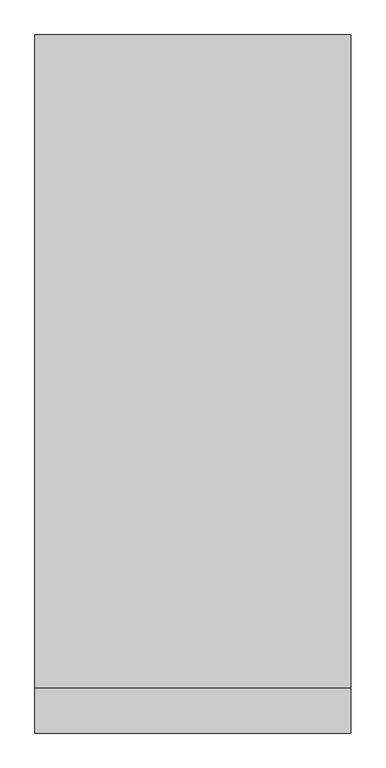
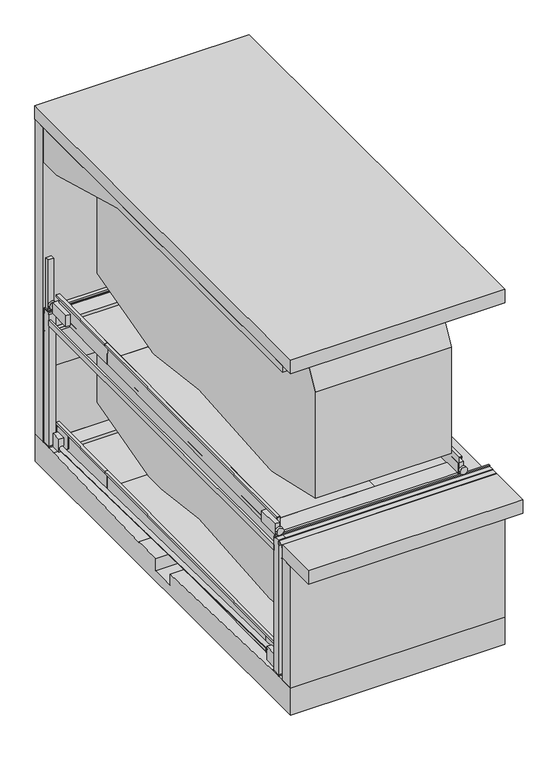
"""IFC4 building model written with IfcOpenShell, lengths in millimetres: proxy geometry, TrendVario_6100 : TrendVario_6100."""

from ifc_helpers import new_model, si_unit, point, frame, frame_2d, origin, place, context, project, spatial, polyline, circle_curve, trimmed, segment, composite_curve, outline, extrude, faceted_brep, source, transform, mapped, element, save
from ifc_brep_helpers import plane_surface, cylinder_surface, advanced_brep


def generic_models_a79fadba(model_context):
    return source(origin(), model_context, "Body", "SolidModel", [
        extrude(outline(polyline([(0.0, -1500.0), (0.0, 0.0), (1170.0, 0.0), (1170.0, -1500.0), (0.0, -1500.0)])), frame((100.0, 4411.8759587, 12.9805913), z_axis=(0.0, -0.008726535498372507, 0.9999619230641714), x_axis=(0.0, 0.9999619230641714, 0.008726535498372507)), (0.0, 0.0, 1.0), 8.0),
        extrude(outline(polyline([(5343.3866911, 73.1117424), (5581.3776288, 75.1886579), (5581.7615964, 31.1903332), (5578.7617106, 31.1641536), (5578.4039226, 72.1625925), (5346.4127565, 70.1380362), (5346.7705444, 29.1395974), (5343.7706587, 29.1134178), (5343.3866911, 73.1117424)])), frame((100.0, 0.0, 0.0), z_axis=(1.0, 0.0, 0.0), x_axis=(0.0, 1.0, 0.0)), (0.0, 0.0, 1.0), 1500.0),
        extrude(outline(polyline([(320.0, 0.0), (320.0, -43.0), (290.0, -43.0), (290.0, -40.0), (317.0, -40.0), (317.0, -3.0), (0.0, -3.0), (0.0, 52.0), (47.0, 52.0), (47.0, 89.0), (49.9999999, 89.0), (49.9999999, 49.0), (2.9999999, 49.0), (2.9999999, 0.0), (320.0, 0.0)])), frame((100.0, 4412.3122854, -37.0175048), z_axis=(0.0, 0.9999619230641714, 0.008726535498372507), x_axis=(0.0, -0.008726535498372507, 0.9999619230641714)), (0.0, 0.0, 1.0), 1170.0),
        extrude(outline(composite_curve([segment(trimmed(circle_curve(frame_2d((-273.0, 50.2890841)), 6.0), [point((-273.0, 44.2890841))], [point((-273.0, 56.2890841))], False, "CARTESIAN"), True, "CONTINUOUS"), segment(trimmed(circle_curve(frame_2d((-273.0, 50.2890841)), 6.0), [point((-273.0, 56.2890841))], [point((-273.0, 44.2890841))], False, "CARTESIAN"), True, "CONTINUOUS")], self_intersect=False)), frame((0.0, 5774.7632152, 0.0), z_axis=(0.0, 1.0, 0.0), x_axis=(0.0, 0.0, 1.0)), (0.0, 0.0, 1.0), 150.0),
        extrude(outline(composite_curve([segment(trimmed(circle_curve(frame_2d((-273.0, 2650.0)), 6.0), [point((-267.0, 2650.0))], [point((-279.0, 2650.0))], False, "CARTESIAN"), True, "CONTINUOUS"), segment(trimmed(circle_curve(frame_2d((-273.0, 2650.0)), 6.0), [point((-279.0, 2650.0))], [point((-267.0, 2650.0))], False, "CARTESIAN"), True, "CONTINUOUS")], self_intersect=False)), frame((0.0, 5769.5664345, 0.0), z_axis=(0.0, 1.0, 0.0), x_axis=(0.0, 0.0, 1.0)), (0.0, 0.0, 1.0), 150.0),
        extrude(outline(composite_curve([segment(trimmed(circle_curve(frame_2d((-273.0, 2650.0)), 6.0), [point((-267.0, 2650.0))], [point((-279.0, 2650.0))], False, "CARTESIAN"), True, "CONTINUOUS"), segment(trimmed(circle_curve(frame_2d((-273.0, 2650.0)), 6.0), [point((-279.0, 2650.0))], [point((-267.0, 2650.0))], False, "CARTESIAN"), True, "CONTINUOUS")], self_intersect=False)), frame((0.0, -50.0, 0.0), z_axis=(0.0, 1.0, 0.0), x_axis=(0.0, 0.0, 1.0)), (0.0, 0.0, 1.0), 150.0),
        extrude(outline(composite_curve([segment(trimmed(circle_curve(frame_2d((-273.0, 50.0)), 6.0), [point((-273.0, 56.0))], [point((-273.0, 44.0))], False, "CARTESIAN"), True, "CONTINUOUS"), segment(trimmed(circle_curve(frame_2d((-273.0, 50.0)), 6.0), [point((-273.0, 44.0))], [point((-273.0, 56.0))], False, "CARTESIAN"), True, "CONTINUOUS")], self_intersect=False)), frame((0.0, -50.0, 0.0), z_axis=(0.0, 1.0, 0.0), x_axis=(0.0, 0.0, 1.0)), (0.0, 0.0, 1.0), 150.0),
        extrude(outline(composite_curve([segment(trimmed(circle_curve(frame_2d((145.0, 150.0)), 6.0), [point((139.0, 150.0))], [point((151.0, 150.0))], False, "CARTESIAN"), True, "CONTINUOUS"), segment(trimmed(circle_curve(frame_2d((145.0, 150.0)), 6.0), [point((151.0, 150.0))], [point((139.0, 150.0))], False, "CARTESIAN"), True, "CONTINUOUS")], self_intersect=False)), frame((0.0, 0.0, -2150.0), z_axis=(0.0, 0.0, 1.0), x_axis=(1.0, 0.0, 0.0)), (0.0, 0.0, 1.0), 150.0),
        extrude(outline(composite_curve([segment(trimmed(circle_curve(frame_2d((2555.0, 150.0)), 6.0), [point((2549.0, 150.0))], [point((2561.0, 150.0))], False, "CARTESIAN"), True, "CONTINUOUS"), segment(trimmed(circle_curve(frame_2d((2555.0, 150.0)), 6.0), [point((2561.0, 150.0))], [point((2549.0, 150.0))], False, "CARTESIAN"), True, "CONTINUOUS")], self_intersect=False)), frame((0.0, 0.0, -2150.0), z_axis=(0.0, 0.0, 1.0), x_axis=(1.0, 0.0, 0.0)), (0.0, 0.0, 1.0), 150.0),
        extrude(outline(composite_curve([segment(trimmed(circle_curve(frame_2d((2555.0, 5722.5588178)), 6.0), [point((2549.0, 5722.5588178))], [point((2561.0, 5722.5588178))], False, "CARTESIAN"), True, "CONTINUOUS"), segment(trimmed(circle_curve(frame_2d((2555.0, 5722.5588178)), 6.0), [point((2561.0, 5722.5588178))], [point((2549.0, 5722.5588178))], False, "CARTESIAN"), True, "CONTINUOUS")], self_intersect=False)), frame((0.0, 0.0, -2150.0), z_axis=(0.0, 0.0, 1.0), x_axis=(1.0, 0.0, 0.0)), (0.0, 0.0, 1.0), 150.0),
        extrude(outline(polyline([(320.0, 0.0), (3.0, 0.0), (3.0, -49.0), (49.9999999, -49.0), (49.9999999, -89.0), (47.0, -89.0), (47.0, -52.0), (0.0, -52.0), (0.0, 3.0), (317.0, 3.0), (317.0, 40.0), (290.0, 40.0), (290.0, 43.0), (320.0, 43.0), (320.0, 0.0)])), frame((2600.0, 237.7412679, -1960.4094164), z_axis=(0.0, 0.9999619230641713, 0.008726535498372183), x_axis=(0.0, -0.008726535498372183, 0.9999619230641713)), (0.0, 0.0, 1.0), 4178.0),
        extrude(outline(polyline([(1941.867435, 0.0), (1941.867435, -1000.0), (-1962.132565, -1000.0), (-1962.132565, 0.0), (1941.867435, 0.0)])), frame((1600.0, 2473.3523611, -1890.89763), z_axis=(0.0, -0.008726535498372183, 0.9999619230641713), x_axis=(0.0, 0.9999619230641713, 0.008726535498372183)), (0.0, 0.0, 1.0), 8.0),
        extrude(outline(polyline([(0.0, -136.0), (0.0, 0.0), (67.0, 0.0), (67.0, -136.0), (0.0, -136.0)])), frame((20.0, 5591.7992407, -1943.6900531), z_axis=(0.0, -0.008726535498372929, 0.9999619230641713), x_axis=(1.0, 0.0, 0.0)), (0.0, 0.0, 1.0), 195.0),
        extrude(outline(polyline([(5613.3985296, -1668.4910874), (5616.1473883, -1983.4790932), (5481.1525287, -1984.6571755), (5344.9795868, -1850.8403982), (5342.7979529, -1600.8499174), (5582.7888144, -1598.7555489), (5583.3996719, -1668.7528835), (5613.3985296, -1668.4910874)])), frame((87.0, 0.0, 0.0), z_axis=(1.0, 0.0, 0.0), x_axis=(0.0, 1.0, 0.0)), (0.0, 0.0, 1.0), 10.0),
        extrude(outline(polyline([(0.0, -1500.0), (0.0, 0.0), (1170.0, 0.0), (1170.0, -1500.0), (0.0, -1500.0)])), frame((100.0, 4415.1458963, -1873.955505), z_axis=(0.0, -0.008726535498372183, 0.9999619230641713), x_axis=(0.0, 0.9999619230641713, 0.008726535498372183)), (0.0, 0.0, 1.0), 8.0),
        extrude(outline(polyline([(5346.6566288, -1813.8243539), (5584.6475665, -1811.7474385), (5585.031534, -1855.7457631), (5582.0316483, -1855.7719427), (5581.6738603, -1814.7735039), (5349.6826942, -1816.7980601), (5350.0404821, -1857.7964989), (5347.0405963, -1857.8226786), (5346.6566288, -1813.8243539)])), frame((100.0, 0.0, 0.0), z_axis=(1.0, 0.0, 0.0), x_axis=(0.0, 1.0, 0.0)), (0.0, 0.0, 1.0), 1500.0),
        extrude(outline(polyline([(320.0, 0.0), (320.0, -43.0), (290.0, -43.0), (290.0, -40.0), (317.0, -40.0), (317.0, -3.0), (0.0, -3.0), (0.0, 52.0), (47.0, 52.0), (47.0, 89.0), (50.0, 89.0), (50.0, 49.0), (3.0, 49.0), (3.0, 0.0), (320.0, 0.0)])), frame((100.0, 4415.5822231, -1923.9536012), z_axis=(0.0, 0.9999619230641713, 0.008726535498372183), x_axis=(0.0, -0.008726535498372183, 0.9999619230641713)), (0.0, 0.0, 1.0), 1170.0),
        extrude(outline(polyline([(320.0, 0.0), (3.0, 0.0), (3.0, -49.0), (49.9999999, -49.0), (49.9999999, -89.0), (47.0, -89.0), (47.0, -52.0), (0.0, -52.0), (0.0, 3.0), (317.0, 3.0), (317.0, 40.0), (290.0, 40.0), (290.0, 43.0), (320.0, 43.0), (320.0, 0.0)])), frame((2600.0, 232.7875414, -73.2083418), z_axis=(0.0, 0.9999619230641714, 0.008726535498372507), x_axis=(0.0, -0.008726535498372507, 0.9999619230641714)), (0.0, 0.0, 1.0), 4178.0),
        extrude(outline(polyline([(1941.867435, 0.0), (1941.867435, -1000.0), (-1962.132565, -1000.0), (-1962.132565, 0.0), (1941.867435, 0.0)])), frame((1600.0, 2468.3986345, -3.6965555), z_axis=(0.0, -0.008726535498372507, 0.9999619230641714), x_axis=(0.0, 0.9999619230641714, 0.008726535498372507)), (0.0, 0.0, 1.0), 8.0),
        extrude(outline(composite_curve([segment(trimmed(circle_curve(frame_2d((145.0, 5722.5588178)), 6.0), [point((139.0, 5722.5588178))], [point((151.0, 5722.5588178))], False, "CARTESIAN"), True, "CONTINUOUS"), segment(trimmed(circle_curve(frame_2d((145.0, 5722.5588178)), 6.0), [point((151.0, 5722.5588178))], [point((139.0, 5722.5588178))], False, "CARTESIAN"), True, "CONTINUOUS")], self_intersect=False)), frame((0.0, 0.0, -2150.0), z_axis=(0.0, 0.0, 1.0), x_axis=(1.0, 0.0, 0.0)), (0.0, 0.0, 1.0), 150.0),
        extrude(outline(polyline([(5999.9581167, -2000.0), (5999.9581167, -2400.0), (-200.0, -2400.0), (-200.0, -2000.0), (250.0, -2000.0), (2725.0057083, -2086.4291038), (2725.0057083, -2247.5791163), (3075.0057083, -2247.5791163), (3075.0057083, -2072.4602645), (3474.9676304, -2058.4932864), (3474.9676304, -2072.4602645), (5549.9581167, -2000.0), (5999.9581167, -2000.0)])), frame((0.0, 0.0, 0.0), z_axis=(1.0, 0.0, 0.0), x_axis=(0.0, 1.0, 0.0)), (0.0, 0.0, 1.0), 3000.0),
        extrude(outline(polyline([(0.0, 5671.7632152), (30.0, 5671.7632152), (30.0, 200.0), (0.0, 200.0), (0.0, 5671.7632152)])), frame((0.0, 0.0, -200.0), z_axis=(0.0, 0.0, 1.0), x_axis=(1.0, 0.0, 0.0)), (0.0, 0.0, 1.0), 80.0),
        extrude(outline(polyline([(164.0, 210.0), (164.0, 90.0), (0.0, 90.0), (0.0, 210.0), (164.0, 210.0)])), frame((0.0, 0.0, -2000.0), z_axis=(0.0, 0.0, 1.0), x_axis=(1.0, 0.0, 0.0)), (0.0, 0.0, 1.0), 18.0),
        extrude(outline(polyline([(164.0, 5784.7632152), (164.0, 5661.7632152), (0.0, 5661.7632152), (0.0, 5784.7632152), (164.0, 5784.7632152)])), frame((0.0, 0.0, -2000.0), z_axis=(0.0, 0.0, 1.0), x_axis=(1.0, 0.0, 0.0)), (0.0, 0.0, 1.0), 18.0),
        extrude(outline(polyline([(2536.0, 5779.5664345), (2700.0, 5779.5664345), (2700.0, 5659.5664345), (2536.0, 5659.5664345), (2536.0, 5779.5664345)])), frame((0.0, 0.0, -2000.0), z_axis=(0.0, 0.0, 1.0), x_axis=(1.0, 0.0, 0.0)), (0.0, 0.0, 1.0), 18.0),
        extrude(outline(polyline([(2536.0, 90.0), (2536.0, 210.0), (2700.0, 210.0), (2700.0, 90.0), (2536.0, 90.0)])), frame((0.0, 0.0, -2000.0), z_axis=(0.0, 0.0, 1.0), x_axis=(1.0, 0.0, 0.0)), (0.0, 0.0, 1.0), 18.0),
        extrude(outline(composite_curve([segment(trimmed(circle_curve(frame_2d((-34.8939913, -3.2601795)), 30.0), [point((-64.8939913, -3.2601795))], [point((-4.8939913, -3.2601795))], False, "CARTESIAN"), True, "CONTINUOUS"), segment(trimmed(circle_curve(frame_2d((-34.8939913, -3.2601795)), 30.0), [point((-4.8939913, -3.2601795))], [point((-64.8939913, -3.2601795))], False, "CARTESIAN"), True, "CONTINUOUS")], self_intersect=False)), frame((20.0, 5455.4339411, -1902.4242792), z_axis=(0.0, -0.9997806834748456, 0.020942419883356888), x_axis=(-1.0, 0.0, 0.0)), (0.0, 0.0, 1.0), 5042.7986422),
        extrude(outline(composite_curve([segment(trimmed(circle_curve(frame_2d((39.6709454, 48.2295861)), 30.0), [point((9.6709454, 48.2295861))], [point((69.6709454, 48.2295861))], False, "CARTESIAN"), True, "CONTINUOUS"), segment(trimmed(circle_curve(frame_2d((39.6709454, 48.2295861)), 30.0), [point((69.6709454, 48.2295861))], [point((9.6709454, 48.2295861))], False, "CARTESIAN"), True, "CONTINUOUS")], self_intersect=False)), frame((2603.0, 5455.8267219, -1947.4325068), z_axis=(0.0, -0.9997806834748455, 0.020942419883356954), x_axis=(1.0, 0.0, 0.0)), (0.0, 0.0, 1.0), 5043.1761415),
        faceted_brep([(2670.0, 210.0, -120.0), (2670.0, 210.0, -200.0), (3000.0, 210.0, -200.0), (3000.0, 210.0, -120.0), (3000.0, 5659.5664345, -120.0), (3000.0, 5659.5664345, -200.0), (2673.0, 5659.5664345, -200.0), (2673.0, 5659.5664345, -120.0), (2670.0, 232.7875088, -120.0), (2670.0, 232.7875088, -200.0), (2670.0, 5656.8533035, -120.0), (2670.0, 5635.4173681, -200.0), (2670.0, 254.2234442, -200.0), (2673.0, 232.7875088, -200.0), (2673.0, 254.2234442, -200.0), (2673.0, 5635.4173681, -200.0), (2673.0, 5656.8533035, -120.0), (2673.0, 232.7875088, -120.0)], [[[0, 1, 2, 3]], [[4, 5, 6, 7]], [[1, 0, 8, 9]], [[10, 11, 12, 8]], [[2, 1, 9, 13, 14, 12, 11, 15, 6, 5]], [[3, 2, 5, 4]], [[0, 3, 4, 7, 16, 10, 8]], [[15, 16, 7, 6]], [[16, 15, 11, 10]], [[17, 14, 13]], [[8, 17, 13, 9]], [[17, 8, 12, 14]]]),
        extrude(outline(polyline([(2700.0, 5669.5664345), (2600.0, 5669.5664345), (2600.0, 5769.5664345), (2700.0, 5769.5664345), (2700.0, 5669.5664345)])), frame((0.0, 0.0, -2000.0), z_axis=(0.0, 0.0, 1.0), x_axis=(1.0, 0.0, 0.0)), (0.0, 0.0, 1.0), 2000.0),
        extrude(outline(polyline([(237.7566323, -1940.8501873), (236.1472757, -1756.4361785), (413.7566323, -1756.4361785), (413.7566323, -1939.3142585), (237.7566323, -1940.8501873)])), frame((2613.0, 0.0, 0.0), z_axis=(1.0, 0.0, 0.0), x_axis=(0.0, 1.0, 0.0)), (0.0, 0.0, 1.0), 70.0),
        extrude(outline(polyline([(237.7412679, -1960.4094164), (235.9626972, -1756.6053926), (413.7412679, -1756.6053926), (413.7412679, -1958.8734877), (237.7412679, -1960.4094164)])), frame((20.0, 0.0, 0.0), z_axis=(1.0, 0.0, 0.0), x_axis=(0.0, 1.0, 0.0)), (0.0, 0.0, 1.0), 70.0),
        extrude(outline(polyline([(0.0, -136.0), (0.0, 0.0), (67.0, 0.0), (67.0, -136.0), (0.0, -136.0)])), frame((2610.0, 5591.7992407, -1943.6900531), z_axis=(0.0, -0.008726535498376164, 0.9999619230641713), x_axis=(1.0, 0.0, 0.0)), (0.0, 0.0, 1.0), 195.0),
        extrude(outline(polyline([(2600.0, 200.0), (2700.0, 200.0), (2700.0, 100.0), (2600.0, 100.0), (2600.0, 200.0)])), frame((0.0, 0.0, -2000.0), z_axis=(0.0, 0.0, 1.0), x_axis=(1.0, 0.0, 0.0)), (0.0, 0.0, 1.0), 2000.0),
        extrude(outline(composite_curve([segment(polyline([(5620.0145776, -585.9914336), (5620.0145776, -1335.9999998), (5618.0221903, -1335.9999998), (5618.0221903, -1527.7646518), (4313.3699728, -1877.3451599)]), True, "CONTINUOUS"), segment(trimmed(circle_curve(frame_2d((4247.6299354, -1632.0)), 254.0), [point((4313.3699728, -1877.3451599))], [point((4224.7221662, -1884.9648871))], False, "CARTESIAN"), True, "CONTINUOUS"), segment(polyline([(4224.7221662, -1884.9648871), (3145.3807126, -1751.0), (1424.180165, -1884.6085614)]), True, "CONTINUOUS"), segment(trimmed(circle_curve(frame_2d((1397.6299354, -1632.0)), 254.0), [point((1424.180165, -1884.6085614))], [point((1340.4923675, -1879.4899965))], False, "CARTESIAN"), True, "CONTINUOUS"), segment(polyline([(1340.4923675, -1879.4899965), (320.456461, -1643.9961518), (320.456461, -689.5033287), (622.3673675, -136.0), (4020.0450351, -135.9999998), (5620.0145776, -585.9914336)]), True, "CONTINUOUS")], self_intersect=False)), frame((650.0, 0.0, 0.0), z_axis=(1.0, 0.0, 0.0), x_axis=(0.0, 1.0, 0.0)), (0.0, 0.0, 1.0), 1900.0),
        extrude(outline(polyline([(3000.0, -200.0), (0.0, -200.0), (0.0, 0.0), (3000.0, 0.0), (3000.0, -200.0)])), frame((0.0, 0.0, -2000.0), z_axis=(0.0, 0.0, 1.0), x_axis=(1.0, 0.0, 0.0)), (0.0, 0.0, 1.0), 1800.0),
        faceted_brep([(100.0, 4412.2895056, -1603.966424), (100.0, 4415.0558174, -1920.9543536), (149.0, 4415.0558174, -1920.9543536), (149.0, 4414.6456702, -1873.9561432), (189.0, 4414.6456702, -1873.9561432), (189.0, 4414.6718498, -1876.956029), (152.0, 4414.6718498, -1876.956029), (152.0, 4415.081997, -1923.9542393), (97.0, 4415.081997, -1923.9542393), (97.0, 4412.3156852, -1606.9663097), (60.0, 4412.3156852, -1606.9663097), (60.0, 4412.5513017, -1633.9652817), (57.0, 4412.5513017, -1633.9652817), (57.0, 4412.2895056, -1603.966424), (100.0, 237.741276, -1960.4093395), (100.0, 234.9487847, -1640.4215242), (57.0, 234.9487847, -1640.4215242), (57.0, 235.2105807, -1670.4203818), (60.0, 235.2105807, -1670.4203818), (60.0, 234.9749643, -1643.4214099), (97.0, 234.9749643, -1643.4214099), (97.0, 237.741276, -1960.4093395), (100.0, 337.7374683, -1959.536686), (100.0, 337.7112887, -1956.5368002), (149.0, 337.7112887, -1956.5368002), (149.0, 337.3011416, -1909.5385898), (189.0, 337.3011416, -1909.5385898), (189.0, 337.3273212, -1912.5384756), (152.0, 337.3273212, -1912.5384756), (152.0, 337.7374683, -1959.536686)], [[[0, 1, 2, 3, 4, 5, 6, 7, 8, 9, 10, 11, 12, 13]], [[14, 15, 16, 17, 18, 19, 20, 21]], [[1, 0, 15, 14, 22, 23]], [[2, 1, 23, 24]], [[3, 2, 24, 25]], [[4, 3, 25, 26]], [[5, 4, 26, 27]], [[6, 5, 27, 28]], [[7, 6, 28, 29]], [[8, 7, 29, 22, 14, 21]], [[9, 8, 21, 20]], [[10, 9, 20, 19]], [[11, 10, 19, 18]], [[12, 11, 18, 17]], [[13, 12, 17, 16]], [[0, 13, 16, 15]], [[23, 22, 29, 28, 27, 26, 25, 24]]]),
        extrude(outline(polyline([(556.8174373, -1957.6248809), (237.7412679, -1960.4094164), (235.9626972, -1756.6053926), (322.913076, -1669.6550138), (556.8174373, -1667.6137613), (556.8174373, -1957.6248809)])), frame((90.0, 0.0, 0.0), z_axis=(1.0, 0.0, 0.0), x_axis=(0.0, 1.0, 0.0)), (0.0, 0.0, 1.0), 10.0),
        extrude(outline(polyline([(342.6444987, -1649.9235911), (556.8174373, -1648.0545322), (556.8174373, -1938.0656517), (237.7412679, -1940.8501873), (236.1319113, -1756.4361785), (342.6444987, -1649.9235911)])), frame((2603.0, 0.0, 0.0), z_axis=(1.0, 0.0, 0.0), x_axis=(0.0, 1.0, 0.0)), (0.0, 0.0, 1.0), 10.0),
        extrude(outline(polyline([(5582.7713613, -1596.755625), (5583.3996719, -1668.7528835), (5613.3985296, -1668.4910874), (5616.1473883, -1983.4790932), (5481.1525287, -1984.6571755), (5344.9795868, -1850.8403982), (5342.7804998, -1598.8499935), (5582.7713613, -1596.755625)])), frame((2600.0, 0.0, 0.0), z_axis=(1.0, 0.0, 0.0), x_axis=(0.0, 1.0, 0.0)), (0.0, 0.0, 1.0), 10.0),
        extrude(outline(polyline([(2600.0, 511.2945081), (2600.0, 241.2945081), (100.0, 241.2945081), (100.0, 511.2945081), (2600.0, 511.2945081)])), frame((0.0, 0.0, -1888.4610204), z_axis=(0.0, 0.0, 1.0), x_axis=(1.0, 0.0, 0.0)), (0.0, 0.0, 1.0), 30.0),
        extrude(outline(polyline([(319.9999232, -43.0), (2.9999232, -43.0), (2.9999232, -92.0), (49.9999231, -92.0), (49.9999231, -132.0), (46.9999232, -132.0), (46.9999232, -95.0), (-7.68e-05, -95.0), (-7.68e-05, -40.0), (316.9999232, -40.0), (316.9999232, -3.0), (289.9999232, -3.0), (289.9999232, 0.0), (319.9999232, 0.0), (319.9999232, -43.0)])), frame((2643.0, 4415.5821906, -1923.9498742), z_axis=(0.0, 0.9999619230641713, 0.008726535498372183), x_axis=(0.0, -0.008726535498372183, 0.9999619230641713)), (0.0, 0.0, 1.0), 1183.1966017),
        extrude(outline(polyline([(100.4126792, 0.0), (100.4126792, -1170.5002127), (-899.5873208, -1170.5002127), (-899.5873208, 0.0), (100.4126792, 0.0)])), frame((2499.5873208, 5585.1013463, -1863.7454585), z_axis=(0.0, -0.008726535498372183, 0.9999619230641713), x_axis=(1.0, 0.0, 0.0)), (0.0, 0.0, 1.0), 8.0),
        extrude(outline(polyline([(5587.3833555, -1811.7198364), (5587.767323, -1855.718161), (5584.7674373, -1855.7443406), (5584.4096493, -1814.7459018), (5352.4184831, -1816.770458), (5352.7762711, -1857.7688968), (5349.7763853, -1857.7950764), (5349.3924178, -1813.7967518), (5587.3833555, -1811.7198364)])), frame((1600.0, 0.0, 0.0), z_axis=(1.0, 0.0, 0.0), x_axis=(0.0, 1.0, 0.0)), (0.0, 0.0, 1.0), 1000.0),
        extrude(outline(polyline([(2038.9337722, 0.0), (2038.9337722, -1500.0), (-1864.3763713, -1500.0), (-1864.3763713, 0.0), (2038.9337722, 0.0)])), frame((1600.0, 2550.3403211, -1890.2294167), z_axis=(0.0, -0.008726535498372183, 0.9999619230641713), x_axis=(0.0, -0.9999619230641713, -0.008726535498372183)), (0.0, 0.0, 1.0), 8.0),
        extrude(outline(polyline([(555.3027268, 0.3516465), (235.3027268, -2.4409511), (235.3027268, 157.5651414), (555.3027268, 160.3577391), (555.3027268, 0.3516465)])), frame((30.0, 0.0, 0.0), z_axis=(1.0, 0.0, 0.0), x_axis=(0.0, 1.0, 0.0)), (0.0, 0.0, 1.0), 70.0),
        extrude(outline(polyline([(5627.0221903, 0.3516465), (5307.0221903, -2.4409511), (5307.0221903, 157.5651414), (5627.0221903, 160.3577391), (5627.0221903, 0.3516465)])), frame((30.0, 0.0, 0.0), z_axis=(1.0, 0.0, 0.0), x_axis=(0.0, 1.0, 0.0)), (0.0, 0.0, 1.0), 70.0),
        extrude(outline(composite_curve([segment(trimmed(circle_curve(frame_2d((73.3516465, 66.0)), 50.0), [point((73.3516465, 16.0))], [point((73.3516465, 116.0))], False, "CARTESIAN"), True, "CONTINUOUS"), segment(trimmed(circle_curve(frame_2d((73.3516465, 66.0)), 50.0), [point((73.3516465, 116.0))], [point((73.3516465, 16.0))], False, "CARTESIAN"), True, "CONTINUOUS")], self_intersect=False)), frame((0.0, 165.3027268, 0.0), z_axis=(0.0, 1.0, 0.0), x_axis=(0.0, 0.0, 1.0)), (0.0, 0.0, 1.0), 35.0),
        extrude(outline(composite_curve([segment(trimmed(circle_curve(frame_2d((73.3516465, 66.0)), 15.0), [point((73.3516465, 51.0))], [point((73.3516465, 81.0))], False, "CARTESIAN"), True, "CONTINUOUS"), segment(trimmed(circle_curve(frame_2d((73.3516465, 66.0)), 15.0), [point((73.3516465, 81.0))], [point((73.3516465, 51.0))], False, "CARTESIAN"), True, "CONTINUOUS")], self_intersect=False)), frame((0.0, 200.3027268, 0.0), z_axis=(0.0, 1.0, 0.0), x_axis=(0.0, 0.0, 1.0)), (0.0, 0.0, 1.0), 35.0),
        extrude(outline(composite_curve([segment(trimmed(circle_curve(frame_2d((73.3516465, 66.0)), 50.0), [point((73.3516465, 16.0))], [point((73.3516465, 116.0))], False, "CARTESIAN"), True, "CONTINUOUS"), segment(trimmed(circle_curve(frame_2d((73.3516465, 66.0)), 50.0), [point((73.3516465, 116.0))], [point((73.3516465, 16.0))], False, "CARTESIAN"), True, "CONTINUOUS")], self_intersect=False)), frame((0.0, 5672.0221903, 0.0), z_axis=(0.0, 1.0, 0.0), x_axis=(0.0, 0.0, 1.0)), (0.0, 0.0, 1.0), 35.0),
        extrude(outline(composite_curve([segment(trimmed(circle_curve(frame_2d((73.3516465, 66.0)), 15.0), [point((73.3516465, 51.0))], [point((73.3516465, 81.0))], False, "CARTESIAN"), True, "CONTINUOUS"), segment(trimmed(circle_curve(frame_2d((73.3516465, 66.0)), 15.0), [point((73.3516465, 81.0))], [point((73.3516465, 51.0))], False, "CARTESIAN"), True, "CONTINUOUS")], self_intersect=False)), frame((0.0, 5627.0221903, 0.0), z_axis=(0.0, 1.0, 0.0), x_axis=(0.0, 0.0, 1.0)), (0.0, 0.0, 1.0), 45.0),
        extrude(outline(polyline([(320.0, 0.0), (320.0, -43.0), (290.0, -43.0), (290.0, -40.0), (317.0, -40.0), (317.0, -3.0), (0.0, -3.0), (0.0, 52.0), (47.0, 52.0), (47.0, 89.0), (50.0, 89.0), (50.0, 49.0), (3.0, 49.0), (3.0, 0.0), (320.0, 0.0)])), frame((100.0, 232.7875088, -73.2046149), z_axis=(0.0, 0.9999619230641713, 0.008726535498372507), x_axis=(0.0, -0.008726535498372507, 0.9999619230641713)), (0.0, 0.0, 1.0), 4177.4997873),
        extrude(outline(polyline([(555.3027268, 0.3516465), (235.3027268, -2.4409511), (235.3027268, 157.5651414), (555.3027268, 160.3577391), (555.3027268, 0.3516465)])), frame((2600.0, 0.0, 0.0), z_axis=(1.0, 0.0, 0.0), x_axis=(0.0, 1.0, 0.0)), (0.0, 0.0, 1.0), 70.0),
        extrude(outline(composite_curve([segment(trimmed(circle_curve(frame_2d((73.3516465, 2635.0)), 50.0), [point((73.3516465, 2685.0))], [point((73.3516465, 2585.0))], False, "CARTESIAN"), True, "CONTINUOUS"), segment(trimmed(circle_curve(frame_2d((73.3516465, 2635.0)), 50.0), [point((73.3516465, 2585.0))], [point((73.3516465, 2685.0))], False, "CARTESIAN"), True, "CONTINUOUS")], self_intersect=False)), frame((0.0, 165.3027268, 0.0), z_axis=(0.0, 1.0, 0.0), x_axis=(0.0, 0.0, 1.0)), (0.0, 0.0, 1.0), 35.0),
        extrude(outline(composite_curve([segment(trimmed(circle_curve(frame_2d((73.3516465, 2635.0)), 15.0), [point((73.3516465, 2650.0))], [point((73.3516465, 2620.0))], False, "CARTESIAN"), True, "CONTINUOUS"), segment(trimmed(circle_curve(frame_2d((73.3516465, 2635.0)), 15.0), [point((73.3516465, 2620.0))], [point((73.3516465, 2650.0))], False, "CARTESIAN"), True, "CONTINUOUS")], self_intersect=False)), frame((0.0, 200.3027268, 0.0), z_axis=(0.0, 1.0, 0.0), x_axis=(0.0, 0.0, 1.0)), (0.0, 0.0, 1.0), 35.0),
        extrude(outline(polyline([(0.0, 5677.3612215), (0.0, 5702.3612215), (3000.0, 5702.3612215), (3000.0, 5677.3612215), (0.0, 5677.3612215)])), frame((0.0, 0.0, 8.0), z_axis=(0.0, 0.0, 1.0), x_axis=(1.0, 0.0, 0.0)), (0.0, 0.0, 1.0), 15.0),
        extrude(outline(polyline([(5778.1588219, 0.0), (5778.1588219, -80.0), (5775.1766811, -80.0), (5775.1766811, -3.0), (5669.5588219, -3.0), (5669.5588219, -30.0), (5666.5588219, -30.0), (5666.5588219, 0.0), (5778.1588219, 0.0)])), frame((0.0, 0.0, 0.0), z_axis=(1.0, 0.0, 0.0), x_axis=(0.0, 1.0, 0.0)), (0.0, 0.0, 1.0), 3000.0),
        extrude(outline(composite_curve([segment(trimmed(circle_curve(frame_2d((73.3516465, 2635.0)), 50.0), [point((73.3516465, 2685.0))], [point((73.3516465, 2585.0))], False, "CARTESIAN"), True, "CONTINUOUS"), segment(trimmed(circle_curve(frame_2d((73.3516465, 2635.0)), 50.0), [point((73.3516465, 2585.0))], [point((73.3516465, 2685.0))], False, "CARTESIAN"), True, "CONTINUOUS")], self_intersect=False)), frame((0.0, 5672.0221903, 0.0), z_axis=(0.0, 1.0, 0.0), x_axis=(0.0, 0.0, 1.0)), (0.0, 0.0, 1.0), 35.0),
        extrude(outline(composite_curve([segment(trimmed(circle_curve(frame_2d((73.3516465, 2635.0)), 15.0), [point((73.3516465, 2650.0))], [point((73.3516465, 2620.0))], False, "CARTESIAN"), True, "CONTINUOUS"), segment(trimmed(circle_curve(frame_2d((73.3516465, 2635.0)), 15.0), [point((73.3516465, 2620.0))], [point((73.3516465, 2650.0))], False, "CARTESIAN"), True, "CONTINUOUS")], self_intersect=False)), frame((0.0, 5627.0221903, 0.0), z_axis=(0.0, 1.0, 0.0), x_axis=(0.0, 0.0, 1.0)), (0.0, 0.0, 1.0), 45.0),
        extrude(outline(polyline([(5627.0221903, 0.3516465), (5307.0221903, -2.4409511), (5307.0221903, 157.5651414), (5627.0221903, 160.3577391), (5627.0221903, 0.3516465)])), frame((2600.0, 0.0, 0.0), z_axis=(1.0, 0.0, 0.0), x_axis=(0.0, 1.0, 0.0)), (0.0, 0.0, 1.0), 70.0),
        extrude(outline(polyline([(506.3333687, 1.7621074), (506.6824301, -38.2363695), (503.6825444, -38.2625491), (503.3596625, -1.263958), (261.7372106, -3.3725652), (105.9840281, -46.5667455), (112.3977491, -69.6938764), (133.5976191, -63.8146321), (134.3993342, -66.7055235), (110.3085729, -73.3864829), (102.2914216, -44.4775693), (261.3160886, -0.376126), (506.3333687, 1.7621074)])), frame((100.0, 0.0, 0.0), z_axis=(1.0, 0.0, 0.0), x_axis=(0.0, 1.0, 0.0)), (0.0, 0.0, 1.0), 2500.0),
        extrude(outline(polyline([(319.9719043, 0.0), (2.9719044, 0.0), (2.9719044, -49.0), (49.9719044, -49.0), (49.9719044, -89.0), (46.9719043, -89.0), (46.9719043, -52.0), (-0.0280957, -52.0), (-0.0280957, 3.0), (316.9719043, 3.0), (316.9719043, 40.0), (289.9719043, 40.0), (289.9719043, 43.0), (319.9719043, 43.0), (319.9719043, 0.0)])), frame((2600.0, 4410.6284234, -36.7451495), z_axis=(0.0, 0.9999619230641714, 0.008726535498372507), x_axis=(0.0, -0.008726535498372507, 0.9999619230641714)), (0.0, 0.0, 1.0), 1171.6814212),
        extrude(outline(polyline([(100.4126792, 0.0), (100.4126792, -1167.2107697), (-899.5873208, -1167.2107697), (-899.5873208, 0.0), (100.4126792, 0.0)])), frame((2499.5873208, 5576.8582614, 23.4305607), z_axis=(0.0, -0.008726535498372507, 0.9999619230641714), x_axis=(1.0, 0.0, 0.0)), (0.0, 0.0, 1.0), 8.0),
        extrude(outline(polyline([(5579.1402706, 75.4561828), (5579.5242381, 31.4578582), (5576.5243524, 31.4316786), (5576.1665644, 72.4301175), (5344.1753983, 70.4055612), (5344.5331862, 29.4071224), (5341.5333004, 29.3809428), (5341.1493329, 73.3792674), (5579.1402706, 75.4561828)])), frame((1600.0, 0.0, 0.0), z_axis=(1.0, 0.0, 0.0), x_axis=(0.0, 1.0, 0.0)), (0.0, 0.0, 1.0), 1000.0),
        extrude(outline(polyline([(2038.9337722, 0.0), (2038.9337722, -1500.0), (-1864.3763713, -1500.0), (-1864.3763713, 0.0), (2038.9337722, 0.0)])), frame((1600.0, 2545.3865539, -3.0246921), z_axis=(0.0, -0.008726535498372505, 0.9999619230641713), x_axis=(0.0, -0.9999619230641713, -0.008726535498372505)), (0.0, 0.0, 1.0), 8.0),
        extrude(outline(polyline([(0.0, -630.5625149), (0.0, 0.0), (3000.0, 0.0), (3000.0, -630.5625149), (0.0, -630.5625149)])), frame((0.0, 0.0, -200.0), z_axis=(0.0, 0.0, 1.0), x_axis=(1.0, 0.0, 0.0)), (0.0, 0.0, 1.0), 200.0),
        faceted_brep([(100.0, 200.0, 8.0), (0.0, 200.0, 8.0), (0.0, 100.0, 8.0), (100.0, 100.0, 8.0), (100.0, 200.0, -2000.0), (100.0, 100.0, -2000.0), (0.0, 100.0, -2000.0), (0.0, 200.0, -2000.0), (0.0, 100.0, -1.0), (0.0, 100.0, 0.0), (100.0, 100.0, -1.0), (100.0, 100.0, 0.0)], [[[0, 1, 2, 3]], [[4, 5, 6, 7]], [[1, 0, 4, 7]], [[2, 1, 7, 6, 8, 9]], [[3, 2, 9, 8, 6, 5, 10, 11]], [[0, 3, 11, 10, 5, 4]]]),
        faceted_brep([(3000.0, 5467.6439919, 2151.0), (3000.0, 3999.9276592, 2551.0062257), (0.0, 3999.9505029, 2551.0), (0.0, 5467.6439919, 2151.0), (3000.0, 5799.9276592, 2151.0), (3000.0, 5799.9276592, 2651.0), (3000.0, 0.0, 2651.0), (3000.0, 0.0, 2551.0), (0.0, 5799.9276592, 2651.0), (0.0, 5799.9276592, 2151.0), (0.0, 0.0, 2551.0), (0.0, 0.0, 2651.0)], [[[0, 1, 2, 3]], [[4, 5, 6, 7, 1, 0]], [[8, 9, 3, 2, 10, 11]], [[5, 4, 9, 8]], [[6, 5, 8, 11]], [[9, 4, 0, 3]], [[7, 10, 2, 1]], [[7, 6, 11, 10]]]),
        faceted_brep([(97.0, 5714.7632152, -1.0), (97.0, 5771.7632152, -1.0), (100.0, 5771.7632152, -1.0), (100.0, 5711.7632152, -1.0), (22.0, 5711.7632152, -1.0), (22.0, 5714.7632152, -1.0), (100.0, 5771.7632152, 0.0), (97.0, 5771.7632152, 0.0), (97.0, 5714.7632152, 0.0), (22.0, 5714.7632152, 0.0), (22.0, 5711.7632152, 0.0), (100.0, 5711.7632152, 0.0), (97.0, 5714.7632152, 0.0), (97.0, 5774.7632152, 740.0), (22.0, 5774.7632152, 740.0), (22.0, 5714.7632152, 740.0), (97.0, 5714.7632152, 740.0), (22.0, 5774.7632152, 0.0), (97.0, 5774.7632152, 0.0), (22.0, 5771.7632152, 0.0)], [[[0, 1, 2, 3, 4, 5]], [[6, 7, 8, 9, 10, 11]], [[3, 2, 6, 11]], [[1, 0, 12, 7]], [[13, 14, 15, 16]], [[17, 18, 7, 12, 9, 19]], [[13, 16, 8, 7, 18]], [[16, 15, 9, 8]], [[15, 14, 17, 19, 9]], [[14, 13, 18, 17]], [[2, 1, 7, 6]], [[5, 9, 12, 0]], [[5, 4, 10, 9]], [[4, 3, 11, 10]]]),
        faceted_brep([(100.0, 5671.7632152, -3.0), (100.0, 5774.7632152, -3.0), (0.0, 5774.7632152, -3.0), (0.0, 5671.7632152, -3.0), (100.0, 5671.7632152, -2000.0), (0.0, 5671.7632152, -2000.0), (0.0, 5774.7632152, -2000.0), (100.0, 5774.7632152, -2000.0)], [[[0, 1, 2, 3]], [[4, 5, 6, 7]], [[1, 0, 4, 7]], [[2, 1, 7, 6]], [[3, 2, 6, 5]], [[0, 3, 5, 4]]]),
        advanced_brep(
        [(650.0, 5620.0145776, 382.7692068), (650.0, 4313.3699728, 32.6548401), (650.0, 4224.7221662, 25.0351129), (650.0, 3145.3807126, 159.0), (650.0, 1424.180165, 25.3914386), (650.0, 1340.4923675, 30.5100035), (650.0, 320.456461, 266.0038482), (650.0, 320.456461, 1835.4966713), (650.0, 649.6400948, 2439.0), (650.0, 3664.4894819, 2439.0000002), (650.0, 5620.0145794, 1889.0085665), (2550.0, 320.456461, 266.0038482), (2550.0, 1340.4923675, 30.5100035), (2550.0, 1424.180165, 25.3914386), (2550.0, 3145.3807126, 159.0), (2550.0, 4224.7221662, 25.0351129), (2550.0, 4313.3699728, 32.6548401), (2550.0, 5620.0145776, 382.7692068), (2550.0, 5620.0145794, 1889.0085665), (2550.0, 3664.4894819, 2439.0000002), (2550.0, 649.6400948, 2439.0), (2550.0, 320.456461, 1835.4966713)],
        [
            (0, 1),
            (1, 2, circle_curve(frame((650.0, 4247.6299354, 278.0), z_axis=(-1.0, 0.0, 0.0), x_axis=(0.0, 1.0, 0.0)), 254.0)),
            (2, 3),
            (3, 4),
            (4, 5, circle_curve(frame((650.0, 1397.6299354, 278.0), z_axis=(-1.0, 0.0, 0.0), x_axis=(0.0, 1.0, 0.0)), 254.0)),
            (5, 6),
            (6, 7),
            (7, 8),
            (8, 9),
            (9, 10),
            (10, 0),
            (11, 12),
            (12, 13, circle_curve(frame((2550.0, 1397.6299354, 278.0), z_axis=(1.0, 0.0, 0.0), x_axis=(0.0, 1.0, 0.0)), 254.0)),
            (13, 14),
            (14, 15),
            (15, 16, circle_curve(frame((2550.0, 4247.6299354, 278.0), z_axis=(1.0, 0.0, 0.0), x_axis=(0.0, 1.0, 0.0)), 254.0)),
            (16, 17),
            (17, 18),
            (18, 19),
            (19, 20),
            (20, 21),
            (21, 11),
            (10, 18),
            (17, 0),
            (16, 1),
            (15, 2),
            (14, 3),
            (13, 4),
            (12, 5),
            (11, 6),
            (21, 7),
            (19, 9),
            (8, 20),
        ],
        [
            plane_surface(frame((650.0, 220.4923675, 0.0), z_axis=(-1.0, 0.0, 0.0), x_axis=(0.0, 0.0, 1.0))),
            plane_surface(frame((2550.0, 220.4923675, 0.0), z_axis=(1.0, 0.0, 0.0), x_axis=(0.0, 0.0, 1.0))),
            plane_surface(frame((650.0, 5620.0145776, 933.3953459), z_axis=(0.0, 1.0, 0.0), x_axis=(1.0, 0.0, 0.0))),
            plane_surface(frame((650.0, 5620.0145776, 382.7692068), z_axis=(0.0, 0.25881904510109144, -0.9659258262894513), x_axis=(1.0, 0.0, 0.0))),
            cylinder_surface(frame((650.0, 4247.6299354, 278.0), z_axis=(-1.0, 0.0, 0.0), x_axis=(0.0, 1.0, 0.0)), 254.0),
            plane_surface(frame((650.0, 4224.7221662, 25.0351129), z_axis=(0.0, -0.12317213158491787, -0.992385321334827), x_axis=(1.0, 0.0, 0.0))),
            plane_surface(frame((650.0, 3145.3807126, 159.0), z_axis=(0.0, 0.07739239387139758, -0.9970007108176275), x_axis=(1.0, 0.0, 0.0))),
            cylinder_surface(frame((650.0, 1397.6299354, 278.0), z_axis=(-1.0, 0.0, 0.0), x_axis=(0.0, 1.0, 0.0)), 254.0),
            plane_surface(frame((650.0, 1340.4923675, 30.5100035), z_axis=(0.0, -0.22495105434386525, -0.9743700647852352), x_axis=(1.0, 0.0, 0.0))),
            plane_surface(frame((650.0, 320.456461, 266.0038482), z_axis=(0.0, -1.0, 0.0), x_axis=(1.0, 0.0, 0.0))),
            plane_surface(frame((650.0, 1176.8709411, 2439.0000002), z_axis=(0.0, 0.0, 1.0), x_axis=(1.0, 0.0, 0.0))),
            plane_surface(frame((650.0, 3664.4894819, 2439.0000002), z_axis=(0.0, 0.27074557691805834, 0.9626509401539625), x_axis=(1.0, 0.0, 0.0))),
            plane_surface(frame((650.0, 320.456461, 1835.4966713), z_axis=(0.0, -0.8778955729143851, 0.478852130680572), x_axis=(1.0, 0.0, 0.0))),
        ],
        [
            (0, [[1, 2, 3, 4, 5, 6, 7, 8, 9, 10, 11]]),
            (1, [[12, 13, 14, 15, 16, 17, 18, 19, 20, 21, 22]]),
            (2, [[-11, 23, -18, 24]]),
            (3, [[-1, -24, -17, 25]]),
            (4, [[-2, -25, -16, 26]]),
            (5, [[-3, -26, -15, 27]]),
            (6, [[-4, -27, -14, 28]]),
            (7, [[-5, -28, -13, 29]]),
            (8, [[-6, -29, -12, 30]]),
            (9, [[-7, -30, -22, 31]]),
            (10, [[32, -9, 33, -20]]),
            (11, [[-10, -32, -19, -23]]),
            (12, [[-8, -31, -21, -33]]),
        ],
    ),
        extrude(outline(polyline([(0.0, 5721.7632152), (0.0, 5774.7632152), (3000.0, 5774.7632152), (3000.0, 5721.7632152), (0.0, 5721.7632152)])), frame((0.0, 0.0, -352.0), z_axis=(0.0, 0.0, 1.0), x_axis=(1.0, 0.0, 0.0)), (0.0, 0.0, 1.0), 25.0),
        extrude(outline(polyline([(700.0, 5769.5664345), (700.0, 5684.5664345), (100.0, 5684.5664345), (100.0, 5769.5664345), (700.0, 5769.5664345)])), frame((0.0, 0.0, -827.0), z_axis=(0.0, 0.0, 1.0), x_axis=(1.0, 0.0, 0.0)), (0.0, 0.0, 1.0), 500.0),
        extrude(outline(polyline([(2600.0, 5774.7632152), (2600.0, 5721.7632152), (97.0, 5721.7632152), (97.0, 5774.7632152), (2600.0, 5774.7632152)])), frame((0.0, 0.0, -352.0), z_axis=(0.0, 0.0, 1.0), x_axis=(1.0, 0.0, 0.0)), (0.0, 0.0, 1.0), 25.0),
        extrude(outline(polyline([(0.0, 169.9031048), (0.0, 194.9031048), (3000.0, 194.9031048), (3000.0, 169.9031048), (0.0, 169.9031048)])), frame((0.0, 0.0, 7.5), z_axis=(0.0, 0.0, 1.0), x_axis=(1.0, 0.0, 0.0)), (0.0, 0.0, 1.0), 15.0),
        extrude(outline(polyline([(100.0, 0.0), (100.0, -73.0), (97.0, -73.0), (97.0, 7.0), (203.0, 7.0), (203.0, -23.0), (200.0, -23.0), (200.0, 0.0), (100.0, 0.0)])), frame((0.0, 0.0, 0.0), z_axis=(1.0, 0.0, 0.0), x_axis=(0.0, 1.0, 0.0)), (0.0, 0.0, 1.0), 3000.0),
        extrude(outline(polyline([(96.5, 0.0), (96.5, -48.0), (93.5, -48.0), (93.5, -3.0), (13.0, -3.0), (13.0, -48.0), (10.0, -48.0), (10.0, 0.0), (96.5, 0.0)])), frame((0.0, 0.0, 0.0), z_axis=(1.0, 0.0, 0.0), x_axis=(0.0, 1.0, 0.0)), (0.0, 0.0, 1.0), 3000.0),
        extrude(outline(polyline([(3000.0, 5799.9276592), (0.0, 5799.9276592), (0.0, 5999.9581167), (3000.0, 5999.9581167), (3000.0, 5799.9276592)])), frame((0.0, 0.0, -2000.0), z_axis=(0.0, 0.0, 1.0), x_axis=(1.0, 0.0, 0.0)), (0.0, 0.0, 1.0), 4651.0),
        extrude(outline(polyline([(3000.0, -200.0), (0.0, -200.0), (0.0, 6002.7632152), (3000.0, 6002.7632152), (3000.0, -200.0)])), frame((0.0, 0.0, 2651.0), z_axis=(0.0, 0.0, 1.0), x_axis=(1.0, 0.0, 0.0)), (0.0, 0.0, 1.0), 200.0),
    ])


if __name__ == "__main__":
    model = new_model("IFC4")
    model_context = context("Model", 3, world=origin())
    ifc_project = project(units=[si_unit("LENGTHUNIT", "METRE", prefix="MILLI")], contexts=[model_context])
    site = spatial("IfcSite", under=ifc_project)
    building = spatial("IfcBuilding", under=site)
    placement = place(None, origin())
    generic_models_shape = generic_models_a79fadba(model_context)
    element("IfcBuildingElementProxy", 1, Name="TrendVario_6100 : TrendVario_6100", ObjectType="TrendVario_6100 : TrendVario_6100", at=placement, inside=building, context=model_context, shape_type="MappedRepresentation", body=[
        mapped(generic_models_shape, transform((0.0, 0.0, 0.0), x_axis=(1.0, 0.0, 0.0), y_axis=(0.0, 1.0, 0.0), z_axis=(0.0, 0.0, 1.0))),
    ])
    save(model, "model.ifc")
